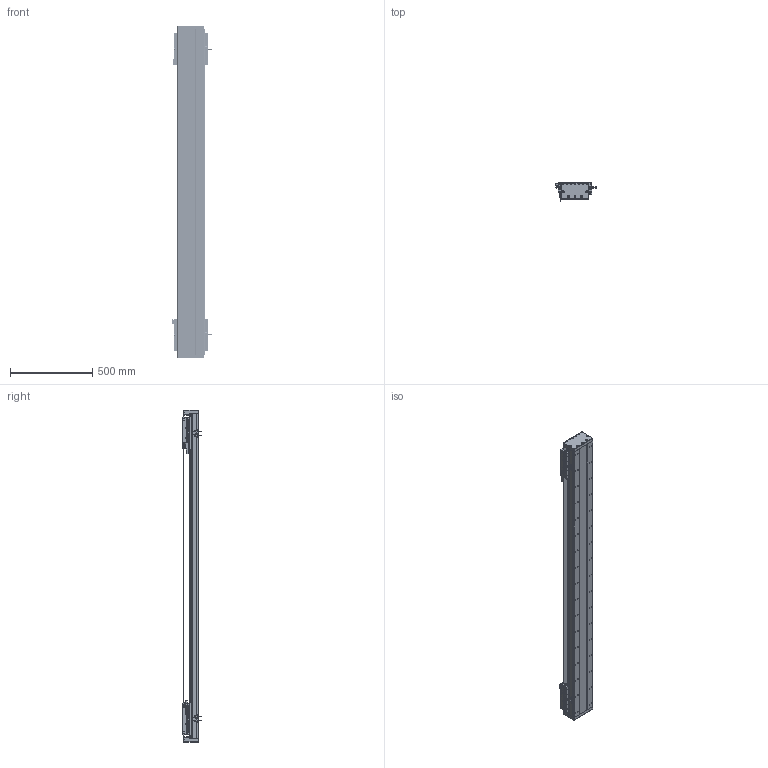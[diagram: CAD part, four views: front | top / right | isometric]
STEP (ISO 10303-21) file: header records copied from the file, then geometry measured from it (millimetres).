
FILE_DESCRIPTION (( 'STEP AP203' ), '1' );
FILE_NAME ('DA-C165-2-C2-T1520-C010-0.2 直线电机.STEP', '2023-05-11T08:22:52', ( '微软用户' ), ( '微软中国' ), 'SwSTEP 2.0', 'SolidWorks 2019', '' );
FILE_SCHEMA (( 'CONFIG_CONTROL_DESIGN' ));
Length unit declared in the file: millimetre
Products named in the file (22): 复件 CKM02-W075-C1C2-TP-3.0 一体电机-C2^DA-C165-C2-T-C010-0.2-N 直线电机; 珨极趙賑雄怢啣wf-C2; 葩璃 DA95-GT-T-00^IU-CU165-L 菁釱絳寢_T; 复件 DKW-HXJ-JY-00 缓冲橡胶^DA-C165-C2-T-C010-0.2-N 直线电机; 葩璃 CKM01-W075-TRL^DA-C165-C2-T-C010-0.2-N 眻盄萇儂; 复件 DA165-GYP-00 光电感应片^DA-C165-C2-T-C010-0.2-N 直线电机; DA-C165-2-C2-T1520-C010-0.2 眻盄萇儂; IU-CU165-L 菁釱絳寢; 复件 DMA-010-0.2 读数头^DA-C165-C2-T-C010-0.2-N 直线电机; 葩璃 PM-T45^DA-C165-C2-T-C010-0.2-N 眻盄萇儂; 复件 CU165钢带组件^DA-C165-C2-T-C010-0.2-N 直线电机; 复件 66338-1000-006-00 光电感应块^DA-C165-C2-T-C010-0.2-N 直线电机; 复件 DA165-GD-1860-002-00 钢带盖板^复件 CU165钢带组件_DA-C165-C2-T-C010-0.2-N 直线电机; 复件 DA126-GYP-ZJ-00 中间光电感应片^DA-C165-C2-T-C010-0.2-N 直线电机; 复件 DA165-GDLK-00 钢带拉块^复件 CU165钢带组件_DA-C165-C2-T-C010-0.2-N 直线电机; 复件 DA95-HXJ-00 缓冲橡胶^DA-C165-C2-T-C010-0.2-N 直线电机; 复件 DA165-GDYK-00 钢带压块^复件 CU165钢带组件_DA-C165-C2-T-C010-0.2-N 直线电机; IU-CU165-L-00 菁釱_L1980; 复件 六角薄螺母 M3^DA-C165-C2-T-C010-0.2-N 直线电机_GB_FASTENER_NUT_STNAB M3-C; 复件 DA165-GD-DG-H-00 端盖^复件 CU165钢带组件_DA-C165-C2-T-C010-0.2-N 直线电机; 复件 XD-U-02L 磁栅尺^DA-C165-C2-T-C010-0.2-N 直线电机_T; 葩璃 PM-Y45^DA-C165-C2-T-C010-0.2-N 眻盄萇儂
Assembly tree (43 placements, depth 3):
  DA-C165-2-C2-T1520-C010-0.2 眻盄萇儂
    IU-CU165-L 菁釱絳寢
      IU-CU165-L-00 菁釱_L1980
      葩璃 DA95-GT-T-00^IU-CU165-L 菁釱絳寢_T  x4
    复件 XD-U-02L 磁栅尺^DA-C165-C2-T-C010-0.2-N 直线电机_T
    葩璃 PM-T45^DA-C165-C2-T-C010-0.2-N 眻盄萇儂  x4
    葩璃 CKM01-W075-TRL^DA-C165-C2-T-C010-0.2-N 眻盄萇儂
    复件 CU165钢带组件^DA-C165-C2-T-C010-0.2-N 直线电机
      复件 DA165-GD-DG-H-00 端盖^复件 CU165钢带组件_DA-C165-C2-T-C010-0.2-N 直线电机  x2
      复件 DA165-GDYK-00 钢带压块^复件 CU165钢带组件_DA-C165-C2-T-C010-0.2-N 直线电机  x2
      复件 DA165-GD-1860-002-00 钢带盖板^复件 CU165钢带组件_DA-C165-C2-T-C010-0.2-N 直线电机
      复件 DA165-GDLK-00 钢带拉块^复件 CU165钢带组件_DA-C165-C2-T-C010-0.2-N 直线电机  x2
    复件 DA95-HXJ-00 缓冲橡胶^DA-C165-C2-T-C010-0.2-N 直线电机  x4
    复件 CKM02-W075-C1C2-TP-3.0 一体电机-C2^DA-C165-C2-T-C010-0.2-N 直线电机  x2
    复件 DMA-010-0.2 读数头^DA-C165-C2-T-C010-0.2-N 直线电机  x2
    复件 DA165-GYP-00 光电感应片^DA-C165-C2-T-C010-0.2-N 直线电机  x2
    复件 66338-1000-006-00 光电感应块^DA-C165-C2-T-C010-0.2-N 直线电机
    葩璃 PM-Y45^DA-C165-C2-T-C010-0.2-N 眻盄萇儂
    复件 DA126-GYP-ZJ-00 中间光电感应片^DA-C165-C2-T-C010-0.2-N 直线电机
    复件 DKW-HXJ-JY-00 缓冲橡胶^DA-C165-C2-T-C010-0.2-N 直线电机  x2
    复件 六角薄螺母 M3^DA-C165-C2-T-C010-0.2-N 直线电机_GB_FASTENER_NUT_STNAB M3-C  x6
    珨极趙賑雄怢啣wf-C2  x2
Bounding box: 247.2 x 111.45 x 2020 mm (x, y, z)
Volume: 13295392.5 mm3; surface area: 3761033.4 mm2
Topology: 119 solids, 119 shells, 5359 faces, 14786 edges, 9288 vertices
Faces by surface type: cylinder 2780, plane 1787, cone 704, torus 80, sphere 8
Entity records: 121378 total; most frequent: CARTESIAN_POINT 31059, ORIENTED_EDGE 18516, DIRECTION 18164, EDGE_CURVE 9258, AXIS2_PLACEMENT_3D 6860, VERTEX_POINT 6025, VECTOR 4444, LINE 4444
